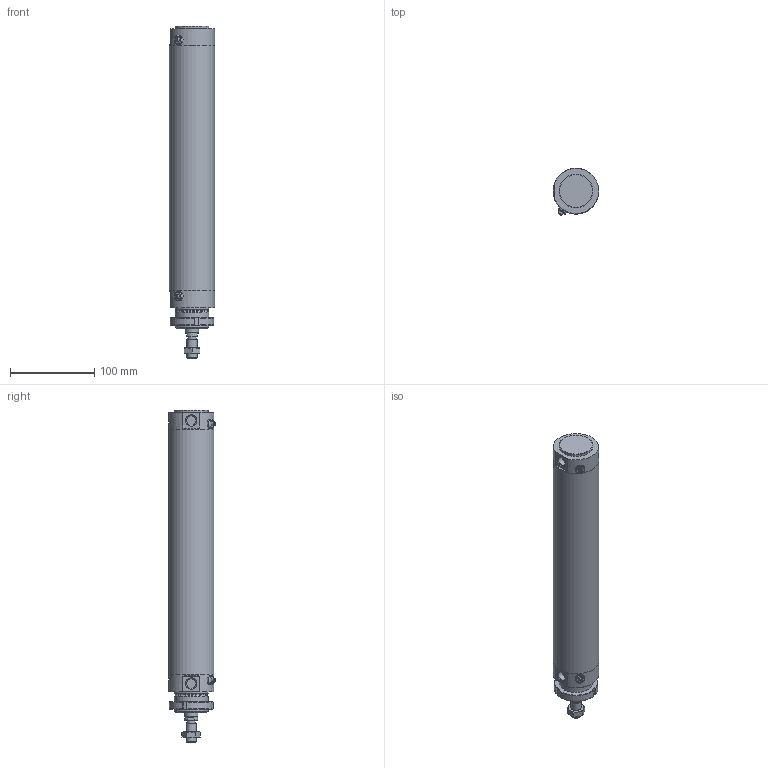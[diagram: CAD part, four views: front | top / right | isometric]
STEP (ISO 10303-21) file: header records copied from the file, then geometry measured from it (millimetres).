
FILE_DESCRIPTION(/* description */ (''),/* implementation_level */ '2;1');
FILE_NAME(/* name */ 'I:\Area Tecnica\Documenti\A-Manieri\_Inventor\12X\12X#D_###_####_#_#\12XBD_050_0250_#_#.stp',/* time_stamp */ '2015-05-04T15:12:58+02:00',/* author */ ('maniean1'),/* organization */ ('Pneumax S.p.A.'),/* preprocessor_version */ 'ST-DEVELOPER v15.2',/* originating_system */ 'Autodesk Inventor 2014',/* authorisation */ '');
FILE_SCHEMA (('AUTOMOTIVE_DESIGN { 1 0 10303 214 3 1 1 }'));
Length unit declared in the file: millimetre
Products named in the file (7): C1250_619-0250; 12X50_606; S12X50_0250; 12X_50_11; 12X50_612; G12X_050_05; 12XBD_050_0250_#_#
Bounding box: 54 x 55.88 x 395 mm (x, y, z)
Volume: 368127.1 mm3; surface area: 150096.5 mm2
Topology: 6 solids, 6 shells, 99 faces, 217 edges, 140 vertices
Faces by surface type: plane 53, cylinder 25, cone 19, torus 2
Full cylindrical faces by diameter (mm): 5 x2, 10.2 x1, 11 x2, 11.4 x2, 12 x2, 14 x1, 15.6 x1, 16 x1, 38.2 x1, 40 x4, 50 x2, 54 x3
Entity records: 2667 total; most frequent: CARTESIAN_POINT 540, DIRECTION 444, ORIENTED_EDGE 348, AXIS2_PLACEMENT_3D 188, EDGE_CURVE 174, EDGE_LOOP 152, VERTEX_POINT 132, ADVANCED_FACE 99
